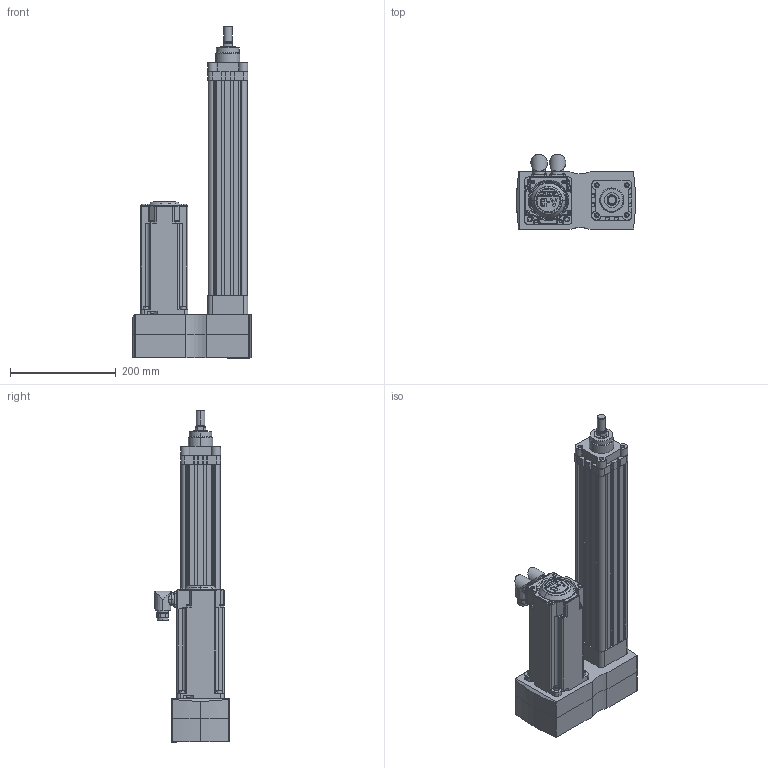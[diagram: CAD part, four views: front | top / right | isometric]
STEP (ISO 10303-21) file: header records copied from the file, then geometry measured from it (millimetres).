
FILE_DESCRIPTION (( 'STEP AP214' ), '1' );
FILE_NAME ('Rockwell Automation-$PARTNUMBER.STEP', '2014-01-09T10:23:59', ( 'Windows User' ), ( '' ), 'SwSTEP 2.0', 'SolidWorks 2014', '' );
FILE_SCHEMA (( 'AUTOMOTIVE_DESIGN' ));
Length unit declared in the file: millimetre
Products named in the file (16): Rockwell Automation-$PARTNUMBER_Rockwell Automation-MPAR-X3300E-M4D_MPL-x330F-M-X212_MPL-x330x-xJ74AA; Rockwell Automation-$PARTNUMBER_Rockwell Automation-MPAR-X3300E-M4D_MPL-x330x-xJ74AA_MPL-3xx-Encoder Connector; Rockwell Automation-$PARTNUMBER_Rockwell Automation-MPAR-X3300E-M4D_MPL-x330x-xJ74AA_MPL-3xx-Power Connector; Rockwell Automation-$PARTNUMBER_Rockwell Automation-MPAR-X3300E-M4D_MPL-x330x-xJ74AA_MPL-3xx-Shaft_330-keyed-BRAKE; Rockwell Automation-$PARTNUMBER_Rockwell Automation-MPAR-X3300E-M4D_MPL-x330x-xJ74AA_MPL-3xx-Body_330-BRAKE; Rockwell Automation-$PARTNUMBER_Rockwell Automation-MPAR-X3300E-M4D_627503; Rockwell Automation-$PARTNUMBER_Rockwell Automation-MPAR-X3300E-M4D_627503_1202981__ASM; Rockwell Automation-$PARTNUMBER_Rockwell Automation-MPAR-X3300E-M4D_627503_1202486; Rockwell Automation-$PARTNUMBER_Rockwell Automation-MPAR-X3300E-M4D_627503_200687_3; Rockwell Automation-$PARTNUMBER_Rockwell Automation-MPAR-X3300E-M4D_627503_215990; Rockwell Automation-$PARTNUMBER_Rockwell Automation-MPAR-X3300E-M4D_627503_354152_3; Rockwell Automation-$PARTNUMBER_Rockwell Automation-MPAR-X3300E-M4D_627503_1202519; Rockwell Automation-$PARTNUMBER; Rockwell Automation-$PARTNUMBER_Rockwell Automation-MPAR-X3300E-M4D_MPAR-x3300x; Rockwell Automation-$PARTNUMBER_Rockwell Automation-MPAR-X3300E-M4D_PRT0018-555473; Rockwell Automation-$PARTNUMBER_Rockwell Automation-MPAR-X3300E-M4D_PRT0017-555473
Assembly tree (25 placements, depth 4):
  Rockwell Automation-$PARTNUMBER
    Rockwell Automation-$PARTNUMBER_Rockwell Automation-MPAR-X3300E-M4D_627503
      Rockwell Automation-$PARTNUMBER_Rockwell Automation-MPAR-X3300E-M4D_627503_1202981__ASM
        Rockwell Automation-$PARTNUMBER_Rockwell Automation-MPAR-X3300E-M4D_627503_1202519
        Rockwell Automation-$PARTNUMBER_Rockwell Automation-MPAR-X3300E-M4D_627503_354152_3  x4
        Rockwell Automation-$PARTNUMBER_Rockwell Automation-MPAR-X3300E-M4D_627503_215990  x5
        Rockwell Automation-$PARTNUMBER_Rockwell Automation-MPAR-X3300E-M4D_627503_200687_3  x4
        Rockwell Automation-$PARTNUMBER_Rockwell Automation-MPAR-X3300E-M4D_627503_1202486
    Rockwell Automation-$PARTNUMBER_Rockwell Automation-MPAR-X3300E-M4D_MPL-x330F-M-X212_MPL-x330x-xJ74AA
      Rockwell Automation-$PARTNUMBER_Rockwell Automation-MPAR-X3300E-M4D_MPL-x330x-xJ74AA_MPL-3xx-Body_330-BRAKE
      Rockwell Automation-$PARTNUMBER_Rockwell Automation-MPAR-X3300E-M4D_MPL-x330x-xJ74AA_MPL-3xx-Shaft_330-keyed-BRAKE
      Rockwell Automation-$PARTNUMBER_Rockwell Automation-MPAR-X3300E-M4D_MPL-x330x-xJ74AA_MPL-3xx-Power Connector
      Rockwell Automation-$PARTNUMBER_Rockwell Automation-MPAR-X3300E-M4D_MPL-x330x-xJ74AA_MPL-3xx-Encoder Connector
    Rockwell Automation-$PARTNUMBER_Rockwell Automation-MPAR-X3300E-M4D_MPAR-x3300x
      Rockwell Automation-$PARTNUMBER_Rockwell Automation-MPAR-X3300E-M4D_PRT0017-555473
      Rockwell Automation-$PARTNUMBER_Rockwell Automation-MPAR-X3300E-M4D_PRT0018-555473
Bounding box: 224.58 x 142.38 x 628 mm (x, y, z)
Volume: 4288779.2 mm3; surface area: 690389.7 mm2
Topology: 22 solids, 22 shells, 2002 faces, 5108 edges, 3285 vertices
Faces by surface type: plane 790, cylinder 710, cone 302, bspline 112, torus 88
Entity records: 62140 total; most frequent: CARTESIAN_POINT 19793, ORIENTED_EDGE 8814, DIRECTION 8194, EDGE_CURVE 4407, AXIS2_PLACEMENT_3D 2983, VERTEX_POINT 2865, VECTOR 2228, LINE 2228
